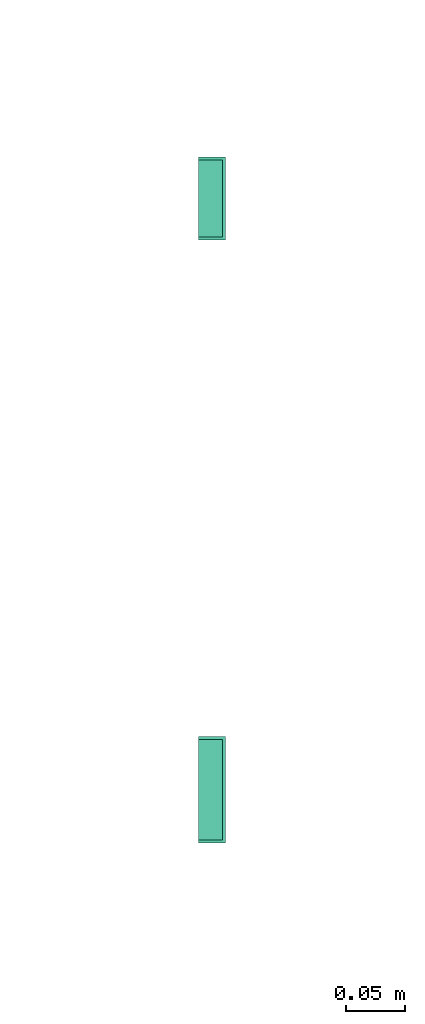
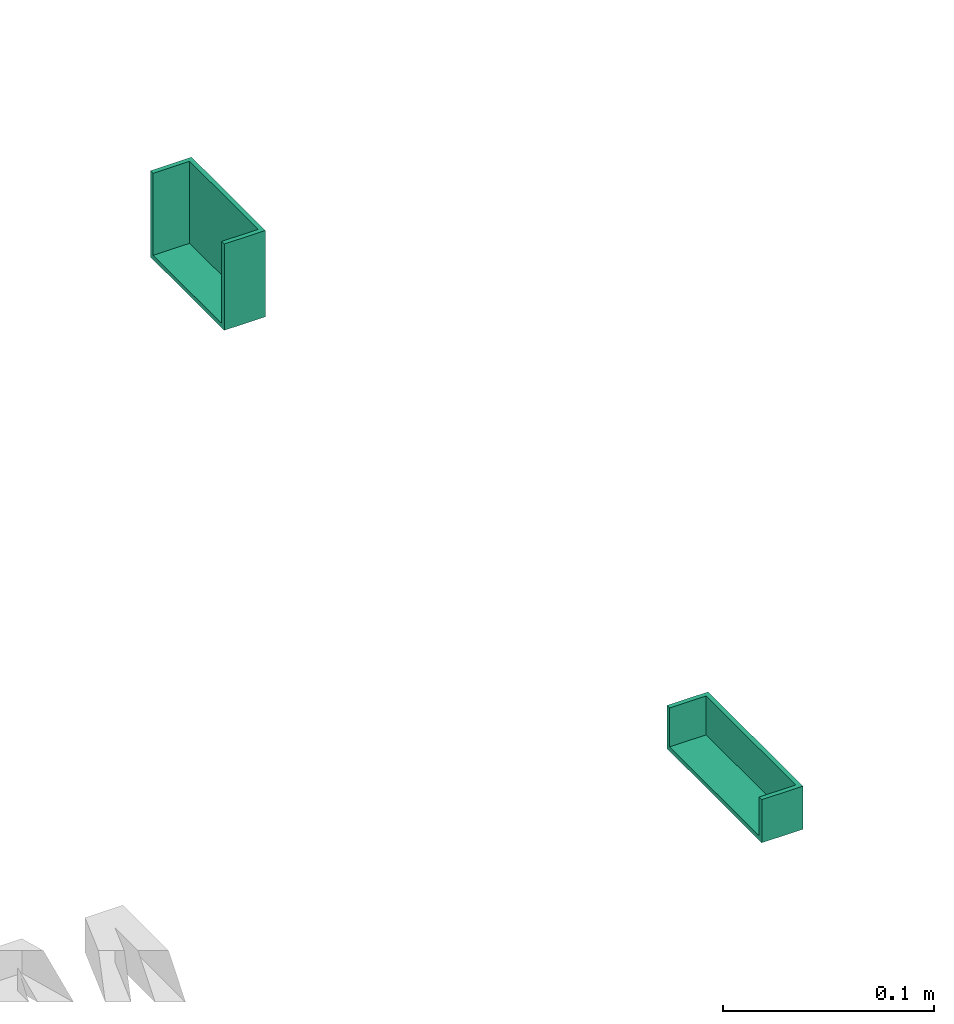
# One storey, part 15 of 87: 2 flow fittings.
"""IFC2X3 building model written with IfcOpenShell, lengths in millimetres."""

from ifc_helpers import new_model, entity, si_unit, converted_unit, derived_unit, direction, frame, origin, origin_2d_with_axis, place, context, subcontext, project, spatial, polyline, rectangle, outline, extrude, source, transform, mapped, material, type_object, type_shapes, element, save


model = new_model("IFC2X3")

# Units and contexts
model_context = context("Model", 3, precision=0.01, world=origin(), true_north=direction((6.12303176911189e-17, 1.0)))
body_context = subcontext(model_context, "Body", "Model", "MODEL_VIEW")
ifc_project = project(units=[si_unit("LENGTHUNIT", "METRE", prefix="MILLI"), si_unit("AREAUNIT", "SQUARE_METRE"), si_unit("VOLUMEUNIT", "CUBIC_METRE"), converted_unit("PLANEANGLEUNIT", "DEGREE", entity("IfcRatioMeasure", 0.0174532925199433), si_unit("PLANEANGLEUNIT", "RADIAN"), dimensions=[0, 0, 0, 0, 0, 0, 0]), si_unit("MASSUNIT", "GRAM", prefix="KILO"), derived_unit("MASSDENSITYUNIT", [(si_unit("MASSUNIT", "GRAM", prefix="KILO"), 1), (si_unit("LENGTHUNIT", "METRE"), -3)]), si_unit("TIMEUNIT", "SECOND"), si_unit("FREQUENCYUNIT", "HERTZ"), si_unit("THERMODYNAMICTEMPERATUREUNIT", "DEGREE_CELSIUS"), derived_unit("THERMALTRANSMITTANCEUNIT", [(si_unit("MASSUNIT", "GRAM", prefix="KILO"), 1), (si_unit("THERMODYNAMICTEMPERATUREUNIT", "KELVIN"), -1), (si_unit("TIMEUNIT", "SECOND"), -3)]), derived_unit("VOLUMETRICFLOWRATEUNIT", [(si_unit("LENGTHUNIT", "METRE"), 3), (si_unit("TIMEUNIT", "SECOND"), -1)]), si_unit("ELECTRICCURRENTUNIT", "AMPERE"), si_unit("ELECTRICVOLTAGEUNIT", "VOLT"), si_unit("POWERUNIT", "WATT"), si_unit("FORCEUNIT", "NEWTON", prefix="KILO"), si_unit("ILLUMINANCEUNIT", "LUX"), si_unit("LUMINOUSFLUXUNIT", "LUMEN"), si_unit("LUMINOUSINTENSITYUNIT", "CANDELA"), derived_unit("USERDEFINED", [(si_unit("MASSUNIT", "GRAM", prefix="KILO"), -1), (si_unit("LENGTHUNIT", "METRE"), -2), (si_unit("TIMEUNIT", "SECOND"), 3), (si_unit("LUMINOUSFLUXUNIT", "LUMEN"), 1)]), derived_unit("LINEARVELOCITYUNIT", [(si_unit("LENGTHUNIT", "METRE"), 1), (si_unit("TIMEUNIT", "SECOND"), -1)]), si_unit("PRESSUREUNIT", "PASCAL"), derived_unit("USERDEFINED", [(si_unit("LENGTHUNIT", "METRE"), -2), (si_unit("MASSUNIT", "GRAM", prefix="KILO"), 1), (si_unit("TIMEUNIT", "SECOND"), -2)])], contexts=[model_context])

# Site, building, storey
site_placement = place(None, origin())
site = spatial("IfcSite", under=ifc_project, at=site_placement, Name="Default", CompositionType="ELEMENT")
building_placement = place(site_placement, origin())
building = spatial("IfcBuilding", under=site, at=building_placement, Name="Наименование здания", CompositionType="ELEMENT")
storey_placement = place(building_placement, origin())
storey = spatial("IfcBuildingStorey", under=building, at=storey_placement, Name="Этаж 01", CompositionType="ELEMENT", Elevation=0.0)

# Flow fittings
ifc_material = material(Name="DKC_Пластик")
cable_carrier_fitting_type_1 = type_object("IfcCableCarrierFittingType", Name="Заглушка", PredefinedType="NOTDEFINED", material=ifc_material)
shared_shape_1 = source(origin(), body_context, "Body", "SweptSolid", [
    extrude(outline(polyline([(-25.6250000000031, -35.0), (24.3749999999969, -35.0), (24.3749999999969, -32.500000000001), (-23.1249999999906, -32.500000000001), (-23.1249999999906, 32.4999999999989), (24.3749999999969, 32.4999999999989), (24.3749999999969, 35.0), (-25.6250000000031, 35.0), (-25.6250000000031, -35.0)])), frame((-22.4999999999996, 0.0, 0.625000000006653), z_axis=(1.0, 0.0, 0.0), x_axis=(0.0, 0.0, 1.0)), (0.0, 0.0, 1.0), 22.5),
    extrude(rectangle(XDim=2.50000000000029, YDim=65.0, at=origin_2d_with_axis()), frame((-1.24999999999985, 0.0, -25.0), z_axis=(0.0, 0.0, 1.0), x_axis=(-1.0, 0.0, 0.0)), (0.0, 0.0, 1.0), 50.0),
])
type_shapes(cable_carrier_fitting_type_1, [shared_shape_1])
flow_fitting_1_placement = place(storey_placement, frame((13017.1547740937, -17514.3724506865, 0.0)))
element("IfcFlowFitting", 1, at=flow_fitting_1_placement, inside=storey, type_object=cable_carrier_fitting_type_1, material=ifc_material, Name="КНС_ЗаглушкаТорцевая_ILF_DKC:Заглушка", ObjectType="Заглушка", context=body_context, shape_type="MappedRepresentation", body=[
    mapped(shared_shape_1, transform((0.0, 0.0, 0.0), scale=1.0)),
])
cable_carrier_fitting_type_2 = type_object("IfcCableCarrierFittingType", Name="Заглушка", PredefinedType="NOTDEFINED", material=ifc_material)
shared_shape_2 = source(origin(), body_context, "Body", "SweptSolid", [
    extrude(outline(polyline([(-13.1250000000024, -45.0), (11.8749999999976, -45.0), (11.8749999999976, -42.5000000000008), (-10.6249999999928, -42.5000000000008), (-10.6249999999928, 42.4999999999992), (11.8749999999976, 42.4999999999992), (11.8749999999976, 45.0), (-13.1250000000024, 45.0), (-13.1250000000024, -45.0)])), frame((-22.4999999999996, 0.0, 0.625000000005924), z_axis=(1.0, 0.0, 0.0), x_axis=(0.0, 0.0, 1.0)), (0.0, 0.0, 1.0), 22.5),
    extrude(rectangle(XDim=2.50000000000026, YDim=85.0000000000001, at=origin_2d_with_axis()), frame((-1.24999999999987, 0.0, -12.5), z_axis=(0.0, 0.0, 1.0), x_axis=(-1.0, 0.0, 0.0)), (0.0, 0.0, 1.0), 25.0),
])
type_shapes(cable_carrier_fitting_type_2, [shared_shape_2])
flow_fitting_2_placement = place(storey_placement, frame((13017.1547740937, -18014.3724506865, 0.0)))
element("IfcFlowFitting", 2, at=flow_fitting_2_placement, inside=storey, type_object=cable_carrier_fitting_type_2, material=ifc_material, Name="КНС_ЗаглушкаТорцевая_ILF_DKC:Заглушка", ObjectType="Заглушка", context=body_context, shape_type="MappedRepresentation", body=[
    mapped(shared_shape_2, transform((0.0, 0.0, 0.0), scale=1.0)),
])

save(model, "model.ifc")
